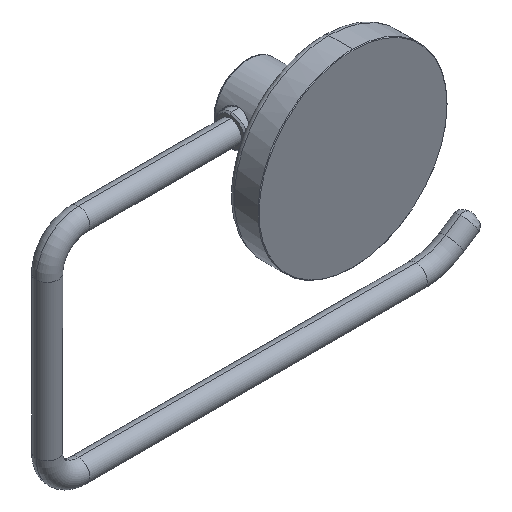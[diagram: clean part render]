
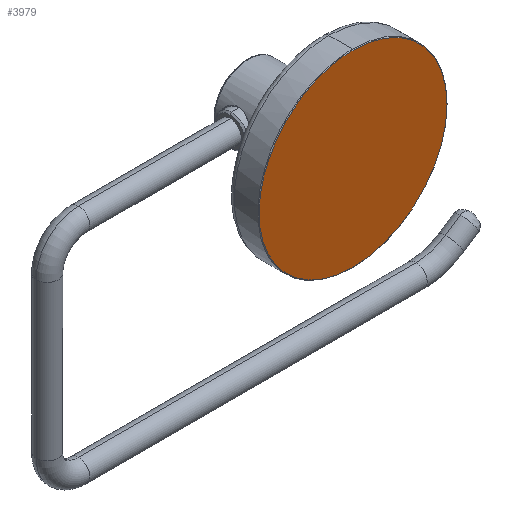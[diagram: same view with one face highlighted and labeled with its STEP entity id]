
A CAD part, isometric view. The second image highlights one B-rep face of the part: STEP entity #3979.
In plain terms, the highlighted planar face has unit normal (0, -1, 0).
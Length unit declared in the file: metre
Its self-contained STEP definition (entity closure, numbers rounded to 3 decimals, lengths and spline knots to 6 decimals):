
#1066=EDGE_CURVE('',#1067,#1069,#1071,.F.);
#1067=VERTEX_POINT('',#1068);
#1068=CARTESIAN_POINT('',(0.0,-0.014,-0.0298));
#1069=VERTEX_POINT('',#1070);
#1070=CARTESIAN_POINT('',(0.0,-0.014,0.0298));
#1071=CIRCLE('',#1072,0.0298);
#1072=AXIS2_PLACEMENT_3D('',#1073,#1074,#1075);
#1073=CARTESIAN_POINT('',(0.0,-0.014,0.0));
#1074=DIRECTION('',(0.0,1.0,0.0));
#1075=DIRECTION('',(0.0,0.0,1.0));
#3979=ADVANCED_FACE('',(#3985),#3980,.F.);
#3980=PLANE('',#3981);
#3981=AXIS2_PLACEMENT_3D('',#3982,#3983,#3984);
#3982=CARTESIAN_POINT('',(0.0,-0.014,0.03));
#3983=DIRECTION('',(0.0,1.0,0.0));
#3984=DIRECTION('',(0.0,0.0,1.0));
#3985=FACE_OUTER_BOUND('',#3986,.T.);
#3986=EDGE_LOOP('',(#3987,#3995));
#3987=ORIENTED_EDGE('',*,*,#3989,.T.);
#3988=CARTESIAN_POINT('',(0.0,-0.014,-0.0298));
#3989=EDGE_CURVE('',#1069,#1067,#3990,.F.);
#3990=(B_SPLINE_CURVE(3,(#3988,#3991,#3992,#3993),.UNSPECIFIED.,.F.,.U.)B_SPLINE_CURVE_WITH_KNOTS(
  (4,4),(0.0,1.0),.UNSPECIFIED.)BOUNDED_CURVE()CURVE()GEOMETRIC_REPRESENTATION_ITEM(
  )RATIONAL_B_SPLINE_CURVE((1.0,0.333,0.333,1.0)
  )REPRESENTATION_ITEM(''));
#3991=CARTESIAN_POINT('',(-0.0596,-0.014,-0.0298));
#3992=CARTESIAN_POINT('',(-0.0596,-0.014,0.0298));
#3993=CARTESIAN_POINT('',(0.0,-0.014,0.0298));
#3995=ORIENTED_EDGE('',*,*,#1066,.T.);
